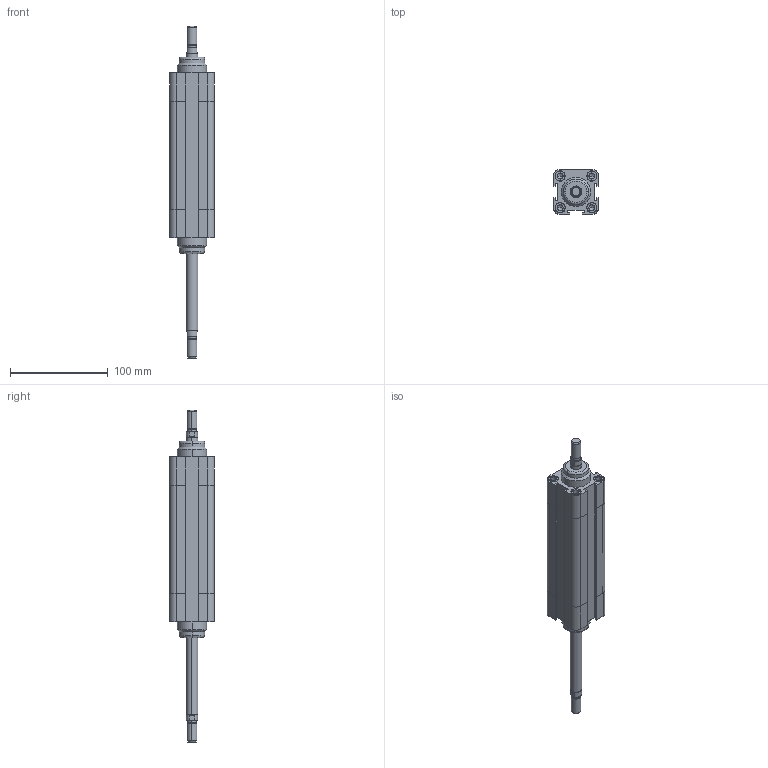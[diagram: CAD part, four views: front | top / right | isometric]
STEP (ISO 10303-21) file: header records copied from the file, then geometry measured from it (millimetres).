
FILE_DESCRIPTION((''),'2;1');
FILE_NAME('F:\Lib-3d\1380\CIL\1380_32_0075_02.stp','2004-01-07T15:57:49',('maffial1'),(''),'Autodesk Inventor 8','Autodesk Inventor 8','');
FILE_SCHEMA(('AUTOMOTIVE_DESIGN { 1 0 10303 214 1 1 1 1 }'));
Length unit declared in the file: millimetre
Products named in the file (3): 1380_32_0075_02; CPP04_32_75; CPP03_32_75
Assembly tree (2 placements, depth 2):
  1380_32_0075_02
    CPP04_32_75
    CPP03_32_75
Bounding box: 46 x 46 x 340 mm (x, y, z)
Volume: 343656.1 mm3; surface area: 69417.6 mm2
Topology: 2 solids, 2 shells, 236 faces, 564 edges, 356 vertices
Faces by surface type: plane 80, cylinder 66, bspline 62, cone 24, torus 4
Entity records: 7513 total; most frequent: CARTESIAN_POINT 2031, DIRECTION 1154, ORIENTED_EDGE 1096, EDGE_CURVE 548, AXIS2_PLACEMENT_3D 427, VERTEX_POINT 356, VECTOR 300, LINE 300
